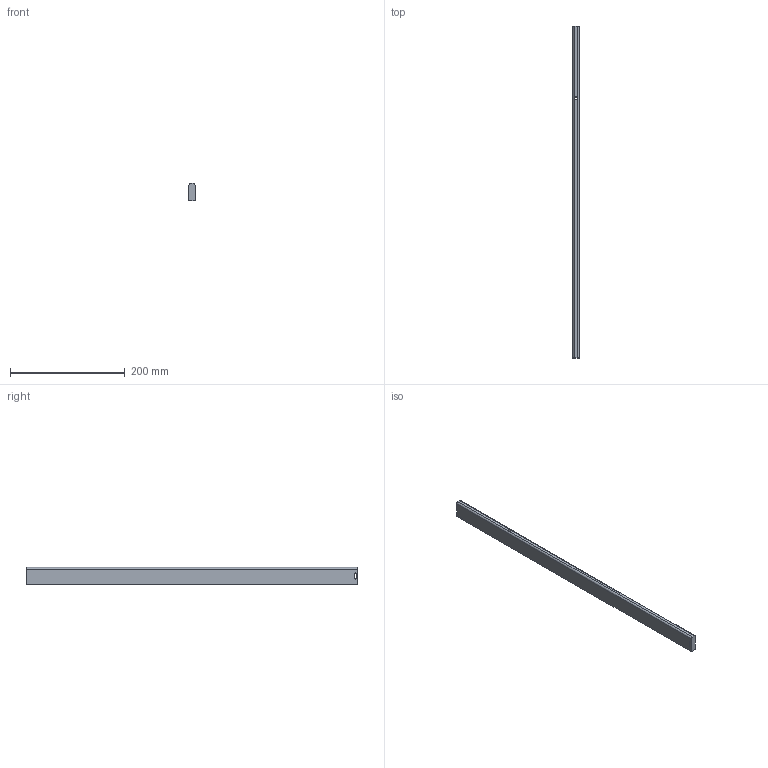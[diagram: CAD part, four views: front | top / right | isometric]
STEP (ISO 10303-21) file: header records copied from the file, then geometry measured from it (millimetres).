
FILE_DESCRIPTION (( 'STEP AP214' ), '1' );
FILE_NAME ('_Seitenreling_S760609500_RL579,5.step', '2010-09-06T14:51:36', ( 'grass' ), ( '' ), 'SwSTEP 2.0', 'SolidWorks 2010', '' );
FILE_SCHEMA (( 'AUTOMOTIVE_DESIGN' ));
Length unit declared in the file: millimetre
Products named in the file (1): _Seitenreling_S760609500_RL579,5
Bounding box: 10.5 x 579.5 x 30 mm (x, y, z)
Volume: 178917.9 mm3; surface area: 46922.7 mm2
Topology: 1 solids, 1 shells, 23 faces, 56 edges, 36 vertices
Faces by surface type: plane 15, cylinder 8
Entity records: 716 total; most frequent: DIRECTION 120, CARTESIAN_POINT 116, ORIENTED_EDGE 112, EDGE_CURVE 56, VECTOR 40, LINE 40, AXIS2_PLACEMENT_3D 40, VERTEX_POINT 36
